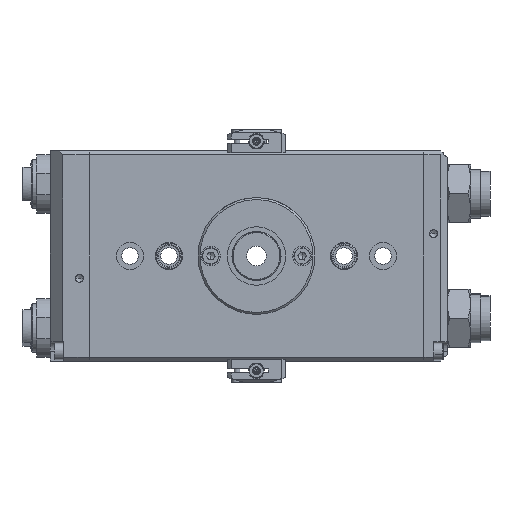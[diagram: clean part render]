
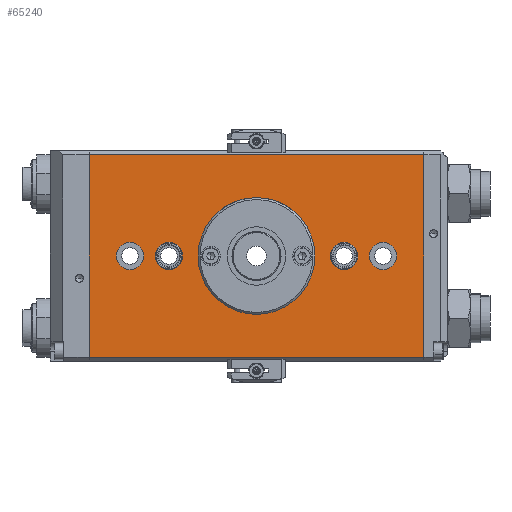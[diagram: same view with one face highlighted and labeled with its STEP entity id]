
A CAD part, front view. The second image highlights one B-rep face of the part: STEP entity #65240.
In plain terms, the highlighted planar face has unit normal (0, -1, 0).
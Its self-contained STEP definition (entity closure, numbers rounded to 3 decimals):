
#107 = DIRECTION ( 'NONE',  ( 0., 0., -1. ) ) ;
#2534 = FACE_BOUND ( 'NONE', #45494, .T. ) ;
#2927 = EDGE_CURVE ( 'NONE', #30245, #116098, #52455, .T. ) ;
#4581 = VECTOR ( 'NONE', #43410, 1000. ) ;
#6641 = CARTESIAN_POINT ( 'NONE',  ( -86., -28., -54. ) ) ;
#7432 = ORIENTED_EDGE ( 'NONE', *, *, #79544, .F. ) ;
#7926 = CARTESIAN_POINT ( 'NONE',  ( 86., -28., -52. ) ) ;
#9044 = CARTESIAN_POINT ( 'NONE',  ( -65., -28., 0. ) ) ;
#9180 = CARTESIAN_POINT ( 'NONE',  ( -65., -28., 0. ) ) ;
#9182 = ORIENTED_EDGE ( 'NONE', *, *, #79728, .F. ) ;
#11510 = AXIS2_PLACEMENT_3D ( 'NONE', #78501, #18470, #88579 ) ;
#13803 = EDGE_CURVE ( 'NONE', #73816, #60383, #70726, .T. ) ;
#13928 = CARTESIAN_POINT ( 'NONE',  ( -65., -28., 7. ) ) ;
#16124 = CARTESIAN_POINT ( 'NONE',  ( -86., -28., -52. ) ) ;
#16933 = CARTESIAN_POINT ( 'NONE',  ( 45., -28., 0. ) ) ;
#17521 = CIRCLE ( 'NONE', #52331, 7. ) ;
#18470 = DIRECTION ( 'NONE',  ( 0., -1., 0. ) ) ;
#19120 = DIRECTION ( 'NONE',  ( 0., 0., -1. ) ) ;
#19272 = DIRECTION ( 'NONE',  ( 0., 0., -1. ) ) ;
#19702 = CARTESIAN_POINT ( 'NONE',  ( 65., -28., 0. ) ) ;
#20266 = ORIENTED_EDGE ( 'NONE', *, *, #24646, .F. ) ;
#20348 = EDGE_LOOP ( 'NONE', ( #23287, #73472 ) ) ;
#20597 = CARTESIAN_POINT ( 'NONE',  ( -45., -28., -7. ) ) ;
#21267 = EDGE_CURVE ( 'NONE', #27614, #83105, #26766, .T. ) ;
#23287 = ORIENTED_EDGE ( 'NONE', *, *, #79250, .F. ) ;
#24646 = EDGE_CURVE ( 'NONE', #60383, #73816, #107438, .T. ) ;
#25660 = EDGE_LOOP ( 'NONE', ( #84402, #103019 ) ) ;
#26046 = CARTESIAN_POINT ( 'NONE',  ( 0., -28., 0. ) ) ;
#26067 = FACE_BOUND ( 'NONE', #124656, .T. ) ;
#26636 = AXIS2_PLACEMENT_3D ( 'NONE', #16933, #86990, #26994 ) ;
#26766 = CIRCLE ( 'NONE', #129334, 30. ) ;
#26804 = CIRCLE ( 'NONE', #34727, 30. ) ;
#26994 = DIRECTION ( 'NONE',  ( 0., 0., -1. ) ) ;
#27614 = VERTEX_POINT ( 'NONE', #83407 ) ;
#27722 = ORIENTED_EDGE ( 'NONE', *, *, #100070, .T. ) ;
#29219 = FACE_BOUND ( 'NONE', #25660, .T. ) ;
#29795 = DIRECTION ( 'NONE',  ( 0., 0., -1. ) ) ;
#30245 = VERTEX_POINT ( 'NONE', #49605 ) ;
#31249 = LINE ( 'NONE', #83336, #4581 ) ;
#31804 = CIRCLE ( 'NONE', #111354, 7. ) ;
#34727 = AXIS2_PLACEMENT_3D ( 'NONE', #26046, #96100, #36109 ) ;
#36109 = DIRECTION ( 'NONE',  ( 0., 0., -1. ) ) ;
#36457 = EDGE_CURVE ( 'NONE', #56942, #106244, #48843, .T. ) ;
#37433 = DIRECTION ( 'NONE',  ( 0., -1., 0. ) ) ;
#38329 = LINE ( 'NONE', #80140, #88466 ) ;
#39577 = DIRECTION ( 'NONE',  ( 0., -1., 0. ) ) ;
#41514 = AXIS2_PLACEMENT_3D ( 'NONE', #9180, #79289, #19272 ) ;
#43378 = ORIENTED_EDGE ( 'NONE', *, *, #77538, .T. ) ;
#43410 = DIRECTION ( 'NONE',  ( 0., 0., -1. ) ) ;
#45494 = EDGE_LOOP ( 'NONE', ( #115709, #9182 ) ) ;
#46690 = VERTEX_POINT ( 'NONE', #69140 ) ;
#47152 = EDGE_CURVE ( 'NONE', #60276, #46690, #66666, .T. ) ;
#48843 = CIRCLE ( 'NONE', #11510, 7. ) ;
#49605 = CARTESIAN_POINT ( 'NONE',  ( 45., -28., 7. ) ) ;
#50346 = CARTESIAN_POINT ( 'NONE',  ( 45., -28., 0. ) ) ;
#52331 = AXIS2_PLACEMENT_3D ( 'NONE', #120077, #60185, #107 ) ;
#52455 = CIRCLE ( 'NONE', #26636, 7. ) ;
#52799 = DIRECTION ( 'NONE',  ( 0., -1., 0. ) ) ;
#55854 = FACE_BOUND ( 'NONE', #107734, .T. ) ;
#56942 = VERTEX_POINT ( 'NONE', #20597 ) ;
#59132 = CARTESIAN_POINT ( 'NONE',  ( -86., -28., 52. ) ) ;
#59305 = LINE ( 'NONE', #16124, #112465 ) ;
#60185 = DIRECTION ( 'NONE',  ( 0., -1., 0. ) ) ;
#60276 = VERTEX_POINT ( 'NONE', #92361 ) ;
#60383 = VERTEX_POINT ( 'NONE', #13928 ) ;
#60487 = DIRECTION ( 'NONE',  ( 0., 0., -1. ) ) ;
#61646 = LINE ( 'NONE', #6641, #111691 ) ;
#63083 = CARTESIAN_POINT ( 'NONE',  ( 0., -28., 30. ) ) ;
#65240 = ADVANCED_FACE ( 'NONE', ( #55854, #2534, #82508, #29219, #26067, #129439 ), #122417, .T. ) ;
#66666 = CIRCLE ( 'NONE', #129418, 7. ) ;
#66961 = ORIENTED_EDGE ( 'NONE', *, *, #95706, .F. ) ;
#69140 = CARTESIAN_POINT ( 'NONE',  ( 65., -28., -7. ) ) ;
#69455 = CARTESIAN_POINT ( 'NONE',  ( -45., -28., 7. ) ) ;
#70726 = CIRCLE ( 'NONE', #41514, 7. ) ;
#73472 = ORIENTED_EDGE ( 'NONE', *, *, #2927, .F. ) ;
#73816 = VERTEX_POINT ( 'NONE', #108779 ) ;
#74325 = VERTEX_POINT ( 'NONE', #7926 ) ;
#77538 = EDGE_CURVE ( 'NONE', #85869, #74325, #59305, .T. ) ;
#78501 = CARTESIAN_POINT ( 'NONE',  ( -45., -28., 0. ) ) ;
#79163 = DIRECTION ( 'NONE',  ( 0., -1., 0. ) ) ;
#79250 = EDGE_CURVE ( 'NONE', #116098, #30245, #101366, .T. ) ;
#79289 = DIRECTION ( 'NONE',  ( 0., -1., 0. ) ) ;
#79544 = EDGE_CURVE ( 'NONE', #83105, #27614, #26804, .T. ) ;
#79728 = EDGE_CURVE ( 'NONE', #106244, #56942, #17521, .T. ) ;
#80140 = CARTESIAN_POINT ( 'NONE',  ( -86., -28., 52. ) ) ;
#82508 = FACE_BOUND ( 'NONE', #20348, .T. ) ;
#83105 = VERTEX_POINT ( 'NONE', #63083 ) ;
#83336 = CARTESIAN_POINT ( 'NONE',  ( 86., -28., -54. ) ) ;
#83407 = CARTESIAN_POINT ( 'NONE',  ( 0., -28., -30. ) ) ;
#84402 = ORIENTED_EDGE ( 'NONE', *, *, #115226, .F. ) ;
#85175 = CARTESIAN_POINT ( 'NONE',  ( 45., -28., -7. ) ) ;
#85600 = CARTESIAN_POINT ( 'NONE',  ( 86., -28., 52. ) ) ;
#85869 = VERTEX_POINT ( 'NONE', #111085 ) ;
#86164 = DIRECTION ( 'NONE',  ( 1., 0., 0. ) ) ;
#86990 = DIRECTION ( 'NONE',  ( 0., -1., 0. ) ) ;
#88466 = VECTOR ( 'NONE', #100201, 1000. ) ;
#88579 = DIRECTION ( 'NONE',  ( 0., 0., -1. ) ) ;
#89214 = AXIS2_PLACEMENT_3D ( 'NONE', #50346, #120388, #60487 ) ;
#89799 = DIRECTION ( 'NONE',  ( 0., -1., 0. ) ) ;
#92361 = CARTESIAN_POINT ( 'NONE',  ( 65., -28., 7. ) ) ;
#95706 = EDGE_CURVE ( 'NONE', #102543, #74325, #31249, .T. ) ;
#96100 = DIRECTION ( 'NONE',  ( 0., -1., 0. ) ) ;
#97388 = CARTESIAN_POINT ( 'NONE',  ( 65., -28., 0. ) ) ;
#98062 = EDGE_CURVE ( 'NONE', #117603, #85869, #61646, .T. ) ;
#98271 = ORIENTED_EDGE ( 'NONE', *, *, #98062, .T. ) ;
#99468 = CARTESIAN_POINT ( 'NONE',  ( 0., -28., 0. ) ) ;
#99897 = AXIS2_PLACEMENT_3D ( 'NONE', #9044, #79163, #19120 ) ;
#100070 = EDGE_CURVE ( 'NONE', #102543, #117603, #38329, .T. ) ;
#100201 = DIRECTION ( 'NONE',  ( -1., 0., 0. ) ) ;
#101366 = CIRCLE ( 'NONE', #89214, 7. ) ;
#102543 = VERTEX_POINT ( 'NONE', #85600 ) ;
#103019 = ORIENTED_EDGE ( 'NONE', *, *, #47152, .F. ) ;
#106022 = DIRECTION ( 'NONE',  ( 0., 0., -1. ) ) ;
#106244 = VERTEX_POINT ( 'NONE', #69455 ) ;
#107434 = DIRECTION ( 'NONE',  ( 0., 0., -1. ) ) ;
#107438 = CIRCLE ( 'NONE', #99897, 7. ) ;
#107734 = EDGE_LOOP ( 'NONE', ( #112667, #20266 ) ) ;
#108779 = CARTESIAN_POINT ( 'NONE',  ( -65., -28., -7. ) ) ;
#109546 = DIRECTION ( 'NONE',  ( 0., 0., -1. ) ) ;
#110644 = EDGE_LOOP ( 'NONE', ( #98271, #43378, #66961, #27722 ) ) ;
#111085 = CARTESIAN_POINT ( 'NONE',  ( -86., -28., -52. ) ) ;
#111354 = AXIS2_PLACEMENT_3D ( 'NONE', #19702, #89799, #29795 ) ;
#111691 = VECTOR ( 'NONE', #106022, 1000. ) ;
#112465 = VECTOR ( 'NONE', #86164, 1000. ) ;
#112667 = ORIENTED_EDGE ( 'NONE', *, *, #13803, .F. ) ;
#112745 = CARTESIAN_POINT ( 'NONE',  ( -86., -28., -54. ) ) ;
#115226 = EDGE_CURVE ( 'NONE', #46690, #60276, #31804, .T. ) ;
#115709 = ORIENTED_EDGE ( 'NONE', *, *, #36457, .F. ) ;
#116098 = VERTEX_POINT ( 'NONE', #85175 ) ;
#117603 = VERTEX_POINT ( 'NONE', #59132 ) ;
#120077 = CARTESIAN_POINT ( 'NONE',  ( -45., -28., 0. ) ) ;
#120388 = DIRECTION ( 'NONE',  ( 0., -1., 0. ) ) ;
#122417 = PLANE ( 'NONE',  #124650 ) ;
#122861 = DIRECTION ( 'NONE',  ( 0., 0., -1. ) ) ;
#124650 = AXIS2_PLACEMENT_3D ( 'NONE', #112745, #52799, #122861 ) ;
#124656 = EDGE_LOOP ( 'NONE', ( #126516, #7432 ) ) ;
#126516 = ORIENTED_EDGE ( 'NONE', *, *, #21267, .F. ) ;
#129334 = AXIS2_PLACEMENT_3D ( 'NONE', #99468, #39577, #109546 ) ;
#129418 = AXIS2_PLACEMENT_3D ( 'NONE', #97388, #37433, #107434 ) ;
#129439 = FACE_OUTER_BOUND ( 'NONE', #110644, .T. ) ;
